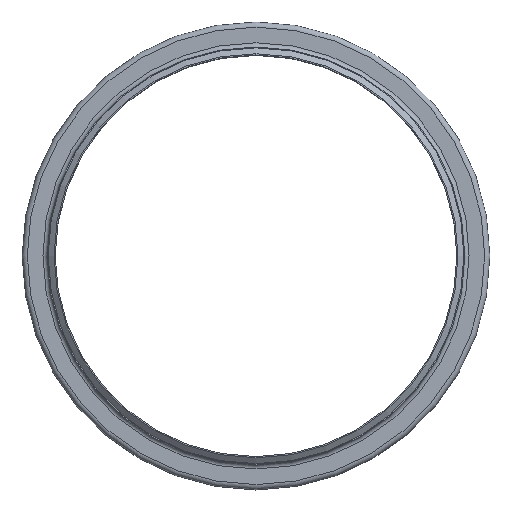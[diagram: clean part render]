
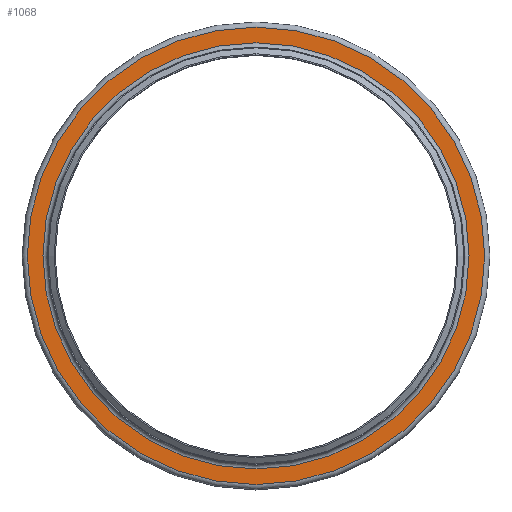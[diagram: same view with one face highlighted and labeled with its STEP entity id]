
A CAD part, top view. The second image highlights one B-rep face of the part: STEP entity #1068.
In plain terms, the highlighted planar face has unit normal (0, 0, 1).
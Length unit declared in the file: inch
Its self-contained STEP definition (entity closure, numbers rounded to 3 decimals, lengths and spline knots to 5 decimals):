
#102=FACE_BOUND('',#282,.T.);
#171=FACE_OUTER_BOUND('',#281,.T.);
#281=EDGE_LOOP('',(#824));
#282=EDGE_LOOP('',(#825));
#402=CIRCLE('',#1264,11.274);
#403=CIRCLE('',#1266,12.101);
#491=VERTEX_POINT('',#1935);
#492=VERTEX_POINT('',#1939);
#606=EDGE_CURVE('',#491,#491,#402,.T.);
#607=EDGE_CURVE('',#492,#492,#403,.T.);
#824=ORIENTED_EDGE('',*,*,#607,.F.);
#825=ORIENTED_EDGE('',*,*,#606,.T.);
#918=PLANE('',#1265);
#1068=ADVANCED_FACE('',(#171,#102),#918,.T.);
#1264=AXIS2_PLACEMENT_3D('',#1937,#1621,#1622);
#1265=AXIS2_PLACEMENT_3D('',#1938,#1623,#1624);
#1266=AXIS2_PLACEMENT_3D('',#1940,#1625,#1626);
#1621=DIRECTION('center_axis',(0.,0.,
-1.));
#1622=DIRECTION('ref_axis',(1.,0.,0.));
#1623=DIRECTION('center_axis',(0.,0.,
1.));
#1624=DIRECTION('ref_axis',(1.,0.,0.));
#1625=DIRECTION('center_axis',(0.,0.,
-1.));
#1626=DIRECTION('ref_axis',(1.,0.,0.));
#1935=CARTESIAN_POINT('',(11.274,0.,-1.726));
#1937=CARTESIAN_POINT('Origin',(0.,0.,
-1.726));
#1938=CARTESIAN_POINT('Origin',(0.,12.101,-1.726));
#1939=CARTESIAN_POINT('',(12.101,0.,-1.726));
#1940=CARTESIAN_POINT('Origin',(0.,0.,
-1.726));
